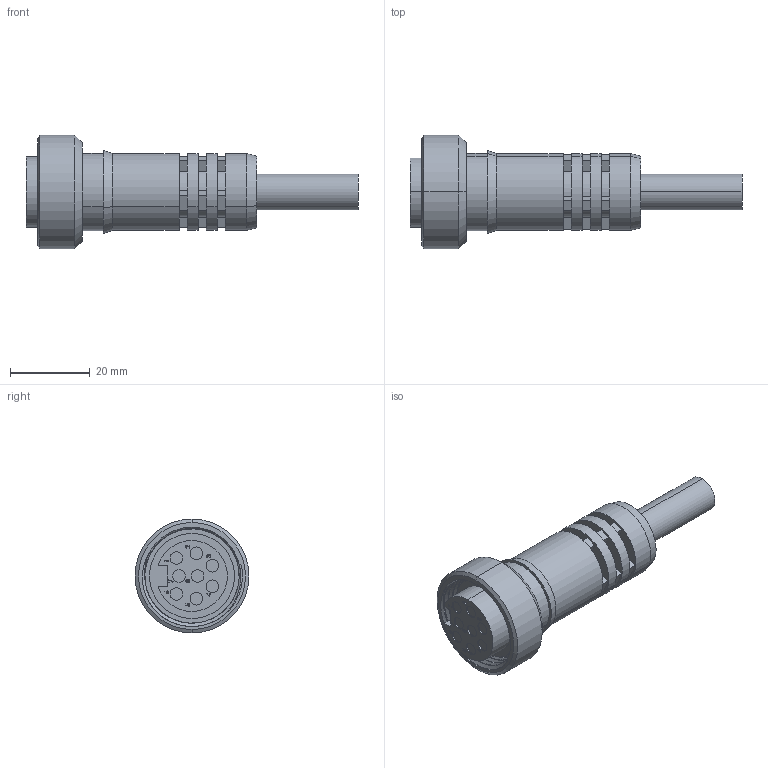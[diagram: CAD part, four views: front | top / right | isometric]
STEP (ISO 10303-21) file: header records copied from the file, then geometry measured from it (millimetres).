
FILE_DESCRIPTION (( 'STEP AP214' ), '1' );
FILE_NAME ('MIN-8FPX-ZZ.STEP', '2011-03-19T20:29:17', ( 'Bruce' ), ( 'HP' ), 'SwSTEP 2.0', 'SolidWorks 2011', '' );
FILE_SCHEMA (( 'AUTOMOTIVE_DESIGN' ));
Length unit declared in the file: millimetre
Products named in the file (1): MIN-8FPX-ZZ
Bounding box: 83.26 x 28.57 x 28.57 mm (x, y, z)
Volume: 19768 mm3; surface area: 8696.7 mm2
Topology: 2 solids, 2 shells, 252 faces, 633 edges, 418 vertices
Faces by surface type: plane 119, cylinder 62, bspline 57, cone 14
Entity records: 13972 total; most frequent: CARTESIAN_POINT 5541, ORIENTED_EDGE 1266, DIRECTION 1010, EDGE_CURVE 633, VERTEX_POINT 418, LINE 374, VECTOR 374, AXIS2_PLACEMENT_3D 318
